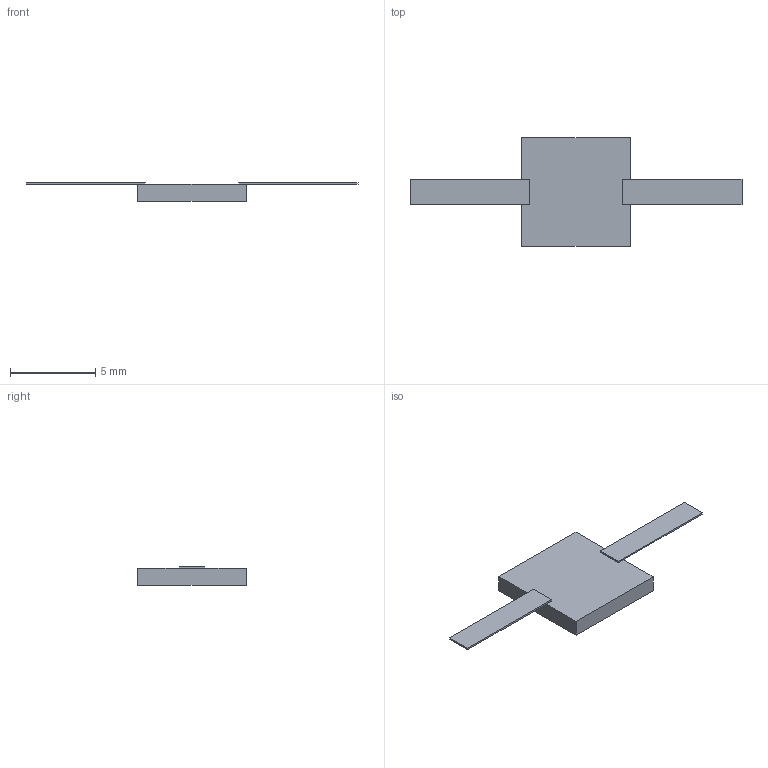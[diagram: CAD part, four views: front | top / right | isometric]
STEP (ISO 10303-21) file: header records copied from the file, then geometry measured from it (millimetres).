
FILE_DESCRIPTION(('STEP AP203'), '1');
FILE_NAME('P1-170-60-17', '', ('UNSPECIFIED'), ('UNSPECIFIED'), 'ASCON STEP Converter 1.6', 'ASCON Math Kernel', '');
FILE_SCHEMA(('CONFIG_CONTROL_DESIGN'));
Length unit declared in the file: millimetre
Bounding box: 19.5 x 6.4 x 1.1 mm (x, y, z)
Volume: 43.1 mm3; surface area: 150.2 mm2
Topology: 1 solids, 1 shells, 18 faces, 44 edges, 28 vertices
Faces by surface type: plane 18
Entity records: 704 total; most frequent: CARTESIAN_POINT 91, ORIENTED_EDGE 88, DIRECTION 82, EDGE_CURVE 44, LINE 44, VECTOR 44, VERTEX_POINT 28, AXIS2_PLACEMENT_3D 19
